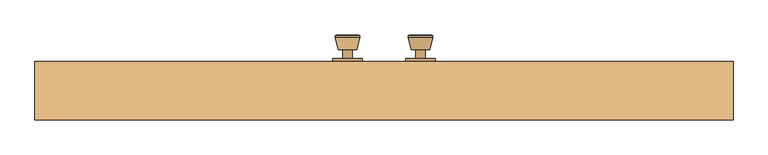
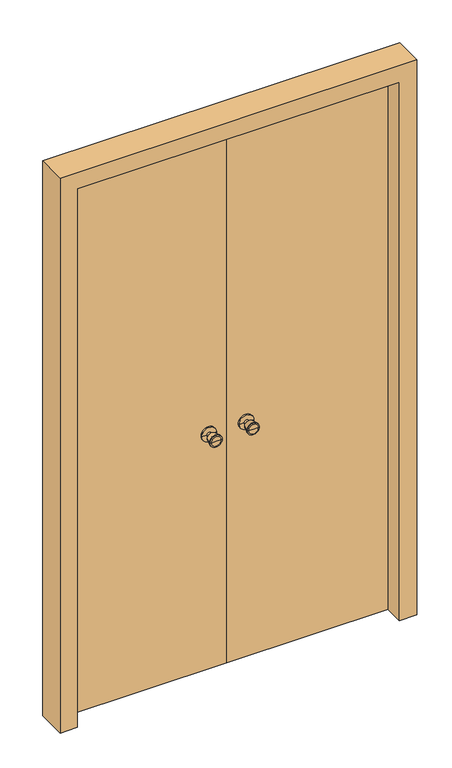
"""IFC4 building model written with IfcOpenShell, lengths in millimetres: door geometry, 雙開-矩形- (1) : 143.5 * 236 cm."""

from ifc_helpers import new_model, si_unit, frame, origin, origin_with_axes, place, context, project, spatial, polyline, circle_curve, outline, extrude, faceted_brep, source, transform, mapped, element, save
from ifc_brep_helpers import plane_surface, cylinder_surface, revolved_surface, advanced_brep


def door_297d4c04(model_context):
    return source(origin(), model_context, "Body", "SolidModel", [
        advanced_brep(
        [(45.0, 66.0, 1000.0), (105.0, 66.0, 1000.0), (105.0, 60.0, 1000.0), (45.0, 60.0, 1000.0), (65.0, 66.0, 1000.0), (85.0, 66.0, 1000.0), (65.0, 85.0, 1000.0), (85.0, 85.0, 1000.0), (56.4, 85.0, 1000.0), (93.6, 85.0, 1000.0), (50.0, 109.7, 1000.0), (100.0, 109.7, 1000.0), (50.0, 113.2, 1000.0), (100.0, 113.2, 1000.0), (54.5, 115.0, 1000.0), (95.5, 115.0, 1000.0), (75.0, 115.0, 1000.0), (75.0, 60.0, 1000.0)],
        [
            (0, 1, circle_curve(frame((75.0, 66.0, 1000.0), z_axis=(0.0, -1.0, 0.0), x_axis=(1.0, 0.0, 0.0)), 30.0)),
            (1, 2),
            (2, 3, circle_curve(frame((75.0, 60.0, 1000.0), z_axis=(0.0, 1.0, 0.0), x_axis=(1.0, 0.0, 0.0)), 30.0)),
            (3, 0),
            (1, 0, circle_curve(frame((75.0, 66.0, 1000.0), z_axis=(0.0, -1.0, 0.0), x_axis=(1.0, 0.0, 0.0)), 30.0)),
            (3, 2, circle_curve(frame((75.0, 60.0, 1000.0), z_axis=(0.0, 1.0, 0.0), x_axis=(1.0, 0.0, 0.0)), 30.0)),
            (4, 5, circle_curve(frame((75.0, 66.0, 1000.0), z_axis=(0.0, -1.0, 0.0), x_axis=(1.0, 0.0, 0.0)), 10.0)),
            (5, 1),
            (0, 4),
            (5, 4, circle_curve(frame((75.0, 66.0, 1000.0), z_axis=(0.0, -1.0, 0.0), x_axis=(1.0, 0.0, 0.0)), 10.0)),
            (6, 7, circle_curve(frame((75.0, 85.0, 1000.0), z_axis=(0.0, -1.0, 0.0), x_axis=(1.0, 0.0, 0.0)), 10.0)),
            (7, 5),
            (4, 6),
            (7, 6, circle_curve(frame((75.0, 85.0, 1000.0), z_axis=(0.0, -1.0, 0.0), x_axis=(1.0, 0.0, 0.0)), 10.0)),
            (8, 9, circle_curve(frame((75.0, 85.0, 1000.0), z_axis=(0.0, -1.0, 0.0), x_axis=(1.0, 0.0, 0.0)), 18.6)),
            (9, 7),
            (6, 8),
            (9, 8, circle_curve(frame((75.0, 85.0, 1000.0), z_axis=(0.0, -1.0, 0.0), x_axis=(1.0, 0.0, 0.0)), 18.6)),
            (10, 11, circle_curve(frame((75.0, 109.7, 1000.0), z_axis=(0.0, -1.0, 0.0), x_axis=(1.0, 0.0, 0.0)), 25.0)),
            (11, 9),
            (8, 10),
            (11, 10, circle_curve(frame((75.0, 109.7, 1000.0), z_axis=(0.0, -1.0, 0.0), x_axis=(1.0, 0.0, 0.0)), 25.0)),
            (12, 13, circle_curve(frame((75.0, 113.2, 1000.0), z_axis=(0.0, -1.0, 0.0), x_axis=(1.0, 0.0, 0.0)), 25.0)),
            (13, 11),
            (10, 12),
            (13, 12, circle_curve(frame((75.0, 113.2, 1000.0), z_axis=(0.0, -1.0, 0.0), x_axis=(1.0, 0.0, 0.0)), 25.0)),
            (14, 15, circle_curve(frame((75.0, 115.0, 1000.0), z_axis=(0.0, -1.0, 0.0), x_axis=(1.0, 0.0, 0.0)), 20.5)),
            (15, 13),
            (12, 14),
            (15, 14, circle_curve(frame((75.0, 115.0, 1000.0), z_axis=(0.0, -1.0, 0.0), x_axis=(1.0, 0.0, 0.0)), 20.5)),
            (16, 15),
            (14, 16),
            (2, 17),
            (17, 3),
        ],
        [
            cylinder_surface(frame((75.0, 0.0, 1000.0), z_axis=(0.0, 1.0, 0.0), x_axis=(1.0, 0.0, 0.0)), 30.0),
            plane_surface(frame((75.0, 66.0, 1000.0), z_axis=(0.0, 1.0, 0.0), x_axis=(1.0, 0.0, 0.0))),
            cylinder_surface(frame((75.0, 0.0, 1000.0), z_axis=(0.0, 1.0, 0.0), x_axis=(1.0, 0.0, 0.0)), 10.0),
            plane_surface(frame((75.0, 85.0, 1000.0), z_axis=(0.0, -1.0, 0.0), x_axis=(1.0, 0.0, 0.0))),
            revolved_surface(polyline([(93.6, 85.0, 1000.0), (100.0, 109.7, 1000.0)]), (75.0, 0.0, 1000.0), (0.0, 1.0, 0.0)),
            cylinder_surface(frame((75.0, 0.0, 1000.0), z_axis=(0.0, 1.0, 0.0), x_axis=(1.0, 0.0, 0.0)), 25.0),
            revolved_surface(polyline([(100.0, 113.2, 1000.0), (95.5, 115.0, 1000.0)]), (75.0, 0.0, 1000.0), (0.0, 1.0, 0.0)),
            plane_surface(frame((75.0, 115.0, 1000.0), z_axis=(0.0, 1.0, 0.0), x_axis=(1.0, 0.0, 0.0))),
            plane_surface(frame((75.0, 60.0, 1000.0), z_axis=(0.0, -1.0, 0.0), x_axis=(1.0, 0.0, 0.0))),
        ],
        [
            (0, [[1, 2, 3, 4]]),
            (0, [[5, -4, 6, -2]]),
            (1, [[7, 8, -1, 9]]),
            (1, [[10, -9, -5, -8]]),
            (2, [[11, 12, -7, 13]]),
            (2, [[14, -13, -10, -12]]),
            (3, [[15, 16, -11, 17]]),
            (3, [[18, -17, -14, -16]]),
            (4, [[19, 20, -15, 21]]),
            (4, [[22, -21, -18, -20]]),
            (5, [[23, 24, -19, 25]]),
            (5, [[26, -25, -22, -24]]),
            (6, [[27, 28, -23, 29]]),
            (6, [[30, -29, -26, -28]]),
            (7, [[31, -27, 32]]),
            (7, [[-32, -30, -31]]),
            (8, [[-3, 33, 34]]),
            (8, [[-6, -34, -33]]),
        ],
    ),
        advanced_brep(
        [(-45.0, 14.0, 1000.0), (-105.0, 14.0, 1000.0), (-105.0, 20.0, 1000.0), (-45.0, 20.0, 1000.0), (-65.0, 14.0, 1000.0), (-85.0, 14.0, 1000.0), (-65.0, -5.0, 1000.0), (-85.0, -5.0, 1000.0), (-56.4, -5.0, 1000.0), (-93.6, -5.0, 1000.0), (-50.0, -29.7, 1000.0), (-100.0, -29.7, 1000.0), (-50.0, -33.2, 1000.0), (-100.0, -33.2, 1000.0), (-54.5, -35.0, 1000.0), (-95.5, -35.0, 1000.0), (-75.0, -35.0, 1000.0), (-75.0, 20.0, 1000.0)],
        [
            (0, 1, circle_curve(frame((-75.0, 14.0, 1000.0), z_axis=(0.0, 1.0, 0.0), x_axis=(-1.0, 0.0, 0.0)), 30.0)),
            (1, 2),
            (2, 3, circle_curve(frame((-75.0, 20.0, 1000.0), z_axis=(0.0, -1.0, 0.0), x_axis=(-1.0, 0.0, 0.0)), 30.0)),
            (3, 0),
            (1, 0, circle_curve(frame((-75.0, 14.0, 1000.0), z_axis=(0.0, 1.0, 0.0), x_axis=(-1.0, 0.0, 0.0)), 30.0)),
            (3, 2, circle_curve(frame((-75.0, 20.0, 1000.0), z_axis=(0.0, -1.0, 0.0), x_axis=(-1.0, 0.0, 0.0)), 30.0)),
            (4, 5, circle_curve(frame((-75.0, 14.0, 1000.0), z_axis=(0.0, 1.0, 0.0), x_axis=(-1.0, 0.0, 0.0)), 10.0)),
            (5, 1),
            (0, 4),
            (5, 4, circle_curve(frame((-75.0, 14.0, 1000.0), z_axis=(0.0, 1.0, 0.0), x_axis=(-1.0, 0.0, 0.0)), 10.0)),
            (6, 7, circle_curve(frame((-75.0, -5.0, 1000.0), z_axis=(0.0, 1.0, 0.0), x_axis=(-1.0, 0.0, 0.0)), 10.0)),
            (7, 5),
            (4, 6),
            (7, 6, circle_curve(frame((-75.0, -5.0, 1000.0), z_axis=(0.0, 1.0, 0.0), x_axis=(-1.0, 0.0, 0.0)), 10.0)),
            (8, 9, circle_curve(frame((-75.0, -5.0, 1000.0), z_axis=(0.0, 1.0, 0.0), x_axis=(-1.0, 0.0, 0.0)), 18.6)),
            (9, 7),
            (6, 8),
            (9, 8, circle_curve(frame((-75.0, -5.0, 1000.0), z_axis=(0.0, 1.0, 0.0), x_axis=(-1.0, 0.0, 0.0)), 18.6)),
            (10, 11, circle_curve(frame((-75.0, -29.7, 1000.0), z_axis=(0.0, 1.0, 0.0), x_axis=(-1.0, 0.0, 0.0)), 25.0)),
            (11, 9),
            (8, 10),
            (11, 10, circle_curve(frame((-75.0, -29.7, 1000.0), z_axis=(0.0, 1.0, 0.0), x_axis=(-1.0, 0.0, 0.0)), 25.0)),
            (12, 13, circle_curve(frame((-75.0, -33.2, 1000.0), z_axis=(0.0, 1.0, 0.0), x_axis=(-1.0, 0.0, 0.0)), 25.0)),
            (13, 11),
            (10, 12),
            (13, 12, circle_curve(frame((-75.0, -33.2, 1000.0), z_axis=(0.0, 1.0, 0.0), x_axis=(-1.0, 0.0, 0.0)), 25.0)),
            (14, 15, circle_curve(frame((-75.0, -35.0, 1000.0), z_axis=(0.0, 1.0, 0.0), x_axis=(-1.0, 0.0, 0.0)), 20.5)),
            (15, 13),
            (12, 14),
            (15, 14, circle_curve(frame((-75.0, -35.0, 1000.0), z_axis=(0.0, 1.0, 0.0), x_axis=(-1.0, 0.0, 0.0)), 20.5)),
            (16, 15),
            (14, 16),
            (2, 17),
            (17, 3),
        ],
        [
            cylinder_surface(frame((-75.0, 80.0, 1000.0), z_axis=(0.0, -1.0, 0.0), x_axis=(-1.0, 0.0, 0.0)), 30.0),
            plane_surface(frame((-75.0, 14.0, 1000.0), z_axis=(0.0, -1.0, 0.0), x_axis=(-1.0, 0.0, 0.0))),
            cylinder_surface(frame((-75.0, 80.0, 1000.0), z_axis=(0.0, -1.0, 0.0), x_axis=(-1.0, 0.0, 0.0)), 10.0),
            plane_surface(frame((-75.0, -5.0, 1000.0), z_axis=(0.0, 1.0, 0.0), x_axis=(-1.0, 0.0, 0.0))),
            revolved_surface(polyline([(-93.6, -5.0, 1000.0), (-100.0, -29.7, 1000.0)]), (-75.0, 80.0, 1000.0), (0.0, -1.0, 0.0)),
            cylinder_surface(frame((-75.0, 80.0, 1000.0), z_axis=(0.0, -1.0, 0.0), x_axis=(-1.0, 0.0, 0.0)), 25.0),
            revolved_surface(polyline([(-100.0, -33.2, 1000.0), (-95.5, -35.0, 1000.0)]), (-75.0, 80.0, 1000.0), (0.0, -1.0, 0.0)),
            plane_surface(frame((-75.0, -35.0, 1000.0), z_axis=(0.0, -1.0, 0.0), x_axis=(-1.0, 0.0, 0.0))),
            plane_surface(frame((-75.0, 20.0, 1000.0), z_axis=(0.0, 1.0, 0.0), x_axis=(-1.0, 0.0, 0.0))),
        ],
        [
            (0, [[1, 2, 3, 4]]),
            (0, [[5, -4, 6, -2]]),
            (1, [[7, 8, -1, 9]]),
            (1, [[10, -9, -5, -8]]),
            (2, [[11, 12, -7, 13]]),
            (2, [[14, -13, -10, -12]]),
            (3, [[15, 16, -11, 17]]),
            (3, [[18, -17, -14, -16]]),
            (4, [[19, 20, -15, 21]]),
            (4, [[22, -21, -18, -20]]),
            (5, [[23, 24, -19, 25]]),
            (5, [[26, -25, -22, -24]]),
            (6, [[27, 28, -23, 29]]),
            (6, [[30, -29, -26, -28]]),
            (7, [[31, -27, 32]]),
            (7, [[-32, -30, -31]]),
            (8, [[-3, 33, 34]]),
            (8, [[-6, -34, -33]]),
        ],
    ),
        advanced_brep(
        [(45.0, 14.0, 1000.0), (45.0, 20.0, 1000.0), (105.0, 20.0, 1000.0), (105.0, 14.0, 1000.0), (65.0, 14.0, 1000.0), (85.0, 14.0, 1000.0), (65.0, -5.0, 1000.0), (85.0, -5.0, 1000.0), (56.4, -5.0, 1000.0), (93.6, -5.0, 1000.0), (50.0, -29.7, 1000.0), (100.0, -29.7, 1000.0), (50.0, -33.2, 1000.0), (100.0, -33.2, 1000.0), (54.5, -35.0, 1000.0), (95.5, -35.0, 1000.0), (75.0, -35.0, 1000.0), (75.0, 20.0, 1000.0)],
        [
            (0, 1),
            (1, 2, circle_curve(frame((75.0, 20.0, 1000.0), z_axis=(0.0, -1.0, 0.0), x_axis=(1.0, 0.0, 0.0)), 30.0)),
            (2, 3),
            (3, 0, circle_curve(frame((75.0, 14.0, 1000.0), z_axis=(0.0, 1.0, 0.0), x_axis=(1.0, 0.0, 0.0)), 30.0)),
            (2, 1, circle_curve(frame((75.0, 20.0, 1000.0), z_axis=(0.0, -1.0, 0.0), x_axis=(1.0, 0.0, 0.0)), 30.0)),
            (0, 3, circle_curve(frame((75.0, 14.0, 1000.0), z_axis=(0.0, 1.0, 0.0), x_axis=(1.0, 0.0, 0.0)), 30.0)),
            (4, 0),
            (3, 5),
            (5, 4, circle_curve(frame((75.0, 14.0, 1000.0), z_axis=(0.0, 1.0, 0.0), x_axis=(1.0, 0.0, 0.0)), 10.0)),
            (4, 5, circle_curve(frame((75.0, 14.0, 1000.0), z_axis=(0.0, 1.0, 0.0), x_axis=(1.0, 0.0, 0.0)), 10.0)),
            (6, 4),
            (5, 7),
            (7, 6, circle_curve(frame((75.0, -5.0, 1000.0), z_axis=(0.0, 1.0, 0.0), x_axis=(1.0, 0.0, 0.0)), 10.0)),
            (6, 7, circle_curve(frame((75.0, -5.0, 1000.0), z_axis=(0.0, 1.0, 0.0), x_axis=(1.0, 0.0, 0.0)), 10.0)),
            (8, 6),
            (7, 9),
            (9, 8, circle_curve(frame((75.0, -5.0, 1000.0), z_axis=(0.0, 1.0, 0.0), x_axis=(1.0, 0.0, 0.0)), 18.6)),
            (8, 9, circle_curve(frame((75.0, -5.0, 1000.0), z_axis=(0.0, 1.0, 0.0), x_axis=(1.0, 0.0, 0.0)), 18.6)),
            (10, 8),
            (9, 11),
            (11, 10, circle_curve(frame((75.0, -29.7, 1000.0), z_axis=(0.0, 1.0, 0.0), x_axis=(1.0, 0.0, 0.0)), 25.0)),
            (10, 11, circle_curve(frame((75.0, -29.7, 1000.0), z_axis=(0.0, 1.0, 0.0), x_axis=(1.0, 0.0, 0.0)), 25.0)),
            (12, 10),
            (11, 13),
            (13, 12, circle_curve(frame((75.0, -33.2, 1000.0), z_axis=(0.0, 1.0, 0.0), x_axis=(1.0, 0.0, 0.0)), 25.0)),
            (12, 13, circle_curve(frame((75.0, -33.2, 1000.0), z_axis=(0.0, 1.0, 0.0), x_axis=(1.0, 0.0, 0.0)), 25.0)),
            (14, 12),
            (13, 15),
            (15, 14, circle_curve(frame((75.0, -35.0, 1000.0), z_axis=(0.0, 1.0, 0.0), x_axis=(1.0, 0.0, 0.0)), 20.5)),
            (14, 15, circle_curve(frame((75.0, -35.0, 1000.0), z_axis=(0.0, 1.0, 0.0), x_axis=(1.0, 0.0, 0.0)), 20.5)),
            (16, 14),
            (15, 16),
            (1, 17),
            (17, 2),
        ],
        [
            cylinder_surface(frame((75.0, 80.0, 1000.0), z_axis=(0.0, -1.0, 0.0), x_axis=(1.0, 0.0, 0.0)), 30.0),
            plane_surface(frame((75.0, 14.0, 1000.0), z_axis=(0.0, -1.0, 0.0), x_axis=(1.0, 0.0, 0.0))),
            cylinder_surface(frame((75.0, 80.0, 1000.0), z_axis=(0.0, -1.0, 0.0), x_axis=(1.0, 0.0, 0.0)), 10.0),
            plane_surface(frame((75.0, -5.0, 1000.0), z_axis=(0.0, 1.0, 0.0), x_axis=(1.0, 0.0, 0.0))),
            revolved_surface(polyline([(93.6, -5.0, 1000.0), (100.0, -29.7, 1000.0)]), (75.0, 80.0, 1000.0), (0.0, -1.0, 0.0)),
            cylinder_surface(frame((75.0, 80.0, 1000.0), z_axis=(0.0, -1.0, 0.0), x_axis=(1.0, 0.0, 0.0)), 25.0),
            revolved_surface(polyline([(100.0, -33.2, 1000.0), (95.5, -35.0, 1000.0)]), (75.0, 80.0, 1000.0), (0.0, -1.0, 0.0)),
            plane_surface(frame((75.0, -35.0, 1000.0), z_axis=(0.0, -1.0, 0.0), x_axis=(1.0, 0.0, 0.0))),
            plane_surface(frame((75.0, 20.0, 1000.0), z_axis=(0.0, 1.0, 0.0), x_axis=(1.0, 0.0, 0.0))),
        ],
        [
            (0, [[1, 2, 3, 4]]),
            (0, [[-3, 5, -1, 6]]),
            (1, [[7, -4, 8, 9]]),
            (1, [[-8, -6, -7, 10]]),
            (2, [[11, -9, 12, 13]]),
            (2, [[-12, -10, -11, 14]]),
            (3, [[15, -13, 16, 17]]),
            (3, [[-16, -14, -15, 18]]),
            (4, [[19, -17, 20, 21]]),
            (4, [[-20, -18, -19, 22]]),
            (5, [[23, -21, 24, 25]]),
            (5, [[-24, -22, -23, 26]]),
            (6, [[27, -25, 28, 29]]),
            (6, [[-28, -26, -27, 30]]),
            (7, [[31, -29, 32]]),
            (7, [[-32, -30, -31]]),
            (8, [[33, 34, -2]]),
            (8, [[-34, -33, -5]]),
        ],
    ),
        advanced_brep(
        [(-45.0, 66.0, 1000.0), (-45.0, 60.0, 1000.0), (-105.0, 60.0, 1000.0), (-105.0, 66.0, 1000.0), (-65.0, 66.0, 1000.0), (-85.0, 66.0, 1000.0), (-65.0, 85.0, 1000.0), (-85.0, 85.0, 1000.0), (-56.4, 85.0, 1000.0), (-93.6, 85.0, 1000.0), (-50.0, 109.7, 1000.0), (-100.0, 109.7, 1000.0), (-50.0, 113.2, 1000.0), (-100.0, 113.2, 1000.0), (-54.5, 115.0, 1000.0), (-95.5, 115.0, 1000.0), (-75.0, 115.0, 1000.0), (-75.0, 60.0, 1000.0)],
        [
            (0, 1),
            (1, 2, circle_curve(frame((-75.0, 60.0, 1000.0), z_axis=(0.0, 1.0, 0.0), x_axis=(-1.0, 0.0, 0.0)), 30.0)),
            (2, 3),
            (3, 0, circle_curve(frame((-75.0, 66.0, 1000.0), z_axis=(0.0, -1.0, 0.0), x_axis=(-1.0, 0.0, 0.0)), 30.0)),
            (2, 1, circle_curve(frame((-75.0, 60.0, 1000.0), z_axis=(0.0, 1.0, 0.0), x_axis=(-1.0, 0.0, 0.0)), 30.0)),
            (0, 3, circle_curve(frame((-75.0, 66.0, 1000.0), z_axis=(0.0, -1.0, 0.0), x_axis=(-1.0, 0.0, 0.0)), 30.0)),
            (4, 0),
            (3, 5),
            (5, 4, circle_curve(frame((-75.0, 66.0, 1000.0), z_axis=(0.0, -1.0, 0.0), x_axis=(-1.0, 0.0, 0.0)), 10.0)),
            (4, 5, circle_curve(frame((-75.0, 66.0, 1000.0), z_axis=(0.0, -1.0, 0.0), x_axis=(-1.0, 0.0, 0.0)), 10.0)),
            (6, 4),
            (5, 7),
            (7, 6, circle_curve(frame((-75.0, 85.0, 1000.0), z_axis=(0.0, -1.0, 0.0), x_axis=(-1.0, 0.0, 0.0)), 10.0)),
            (6, 7, circle_curve(frame((-75.0, 85.0, 1000.0), z_axis=(0.0, -1.0, 0.0), x_axis=(-1.0, 0.0, 0.0)), 10.0)),
            (8, 6),
            (7, 9),
            (9, 8, circle_curve(frame((-75.0, 85.0, 1000.0), z_axis=(0.0, -1.0, 0.0), x_axis=(-1.0, 0.0, 0.0)), 18.6)),
            (8, 9, circle_curve(frame((-75.0, 85.0, 1000.0), z_axis=(0.0, -1.0, 0.0), x_axis=(-1.0, 0.0, 0.0)), 18.6)),
            (10, 8),
            (9, 11),
            (11, 10, circle_curve(frame((-75.0, 109.7, 1000.0), z_axis=(0.0, -1.0, 0.0), x_axis=(-1.0, 0.0, 0.0)), 25.0)),
            (10, 11, circle_curve(frame((-75.0, 109.7, 1000.0), z_axis=(0.0, -1.0, 0.0), x_axis=(-1.0, 0.0, 0.0)), 25.0)),
            (12, 10),
            (11, 13),
            (13, 12, circle_curve(frame((-75.0, 113.2, 1000.0), z_axis=(0.0, -1.0, 0.0), x_axis=(-1.0, 0.0, 0.0)), 25.0)),
            (12, 13, circle_curve(frame((-75.0, 113.2, 1000.0), z_axis=(0.0, -1.0, 0.0), x_axis=(-1.0, 0.0, 0.0)), 25.0)),
            (14, 12),
            (13, 15),
            (15, 14, circle_curve(frame((-75.0, 115.0, 1000.0), z_axis=(0.0, -1.0, 0.0), x_axis=(-1.0, 0.0, 0.0)), 20.5)),
            (14, 15, circle_curve(frame((-75.0, 115.0, 1000.0), z_axis=(0.0, -1.0, 0.0), x_axis=(-1.0, 0.0, 0.0)), 20.5)),
            (16, 14),
            (15, 16),
            (1, 17),
            (17, 2),
        ],
        [
            cylinder_surface(frame((-75.0, 0.0, 1000.0), z_axis=(0.0, 1.0, 0.0), x_axis=(-1.0, 0.0, 0.0)), 30.0),
            plane_surface(frame((-75.0, 66.0, 1000.0), z_axis=(0.0, 1.0, 0.0), x_axis=(-1.0, 0.0, 0.0))),
            cylinder_surface(frame((-75.0, 0.0, 1000.0), z_axis=(0.0, 1.0, 0.0), x_axis=(-1.0, 0.0, 0.0)), 10.0),
            plane_surface(frame((-75.0, 85.0, 1000.0), z_axis=(0.0, -1.0, 0.0), x_axis=(-1.0, 0.0, 0.0))),
            revolved_surface(polyline([(-93.6, 85.0, 1000.0), (-100.0, 109.7, 1000.0)]), (-75.0, 0.0, 1000.0), (0.0, 1.0, 0.0)),
            cylinder_surface(frame((-75.0, 0.0, 1000.0), z_axis=(0.0, 1.0, 0.0), x_axis=(-1.0, 0.0, 0.0)), 25.0),
            revolved_surface(polyline([(-100.0, 113.2, 1000.0), (-95.5, 115.0, 1000.0)]), (-75.0, 0.0, 1000.0), (0.0, 1.0, 0.0)),
            plane_surface(frame((-75.0, 115.0, 1000.0), z_axis=(0.0, 1.0, 0.0), x_axis=(-1.0, 0.0, 0.0))),
            plane_surface(frame((-75.0, 60.0, 1000.0), z_axis=(0.0, -1.0, 0.0), x_axis=(-1.0, 0.0, 0.0))),
        ],
        [
            (0, [[1, 2, 3, 4]]),
            (0, [[-3, 5, -1, 6]]),
            (1, [[7, -4, 8, 9]]),
            (1, [[-8, -6, -7, 10]]),
            (2, [[11, -9, 12, 13]]),
            (2, [[-12, -10, -11, 14]]),
            (3, [[15, -13, 16, 17]]),
            (3, [[-16, -14, -15, 18]]),
            (4, [[19, -17, 20, 21]]),
            (4, [[-20, -18, -19, 22]]),
            (5, [[23, -21, 24, 25]]),
            (5, [[-24, -22, -23, 26]]),
            (6, [[27, -25, 28, 29]]),
            (6, [[-28, -26, -27, 30]]),
            (7, [[31, -29, 32]]),
            (7, [[-32, -30, -31]]),
            (8, [[33, 34, -2]]),
            (8, [[-34, -33, -5]]),
        ],
    ),
        extrude(outline(polyline([(0.0, 60.0), (667.5, 60.0), (667.5, 20.0), (0.0, 20.0), (0.0, 60.0)])), origin_with_axes(), (0.0, 0.0, 1.0), 2310.0),
        extrude(outline(polyline([(-667.5, 60.0), (0.0, 60.0), (0.0, 20.0), (-667.5, 20.0), (-667.5, 60.0)])), origin_with_axes(), (0.0, 0.0, 1.0), 2310.0),
        faceted_brep([(667.5, 60.0, 0.0), (717.5, 60.0, 0.0), (717.5, -60.0, 0.0), (647.5, -60.0, 0.0), (647.5, 20.0, 0.0), (667.5, 20.0, 0.0), (667.5, 60.0, 2310.0), (-667.5, 60.0, 2310.0), (-667.5, 60.0, 0.0), (-717.5, 60.0, 0.0), (-717.5, 60.0, 2360.0), (717.5, 60.0, 2360.0), (717.5, -60.0, 2360.0), (-717.5, -60.0, 2360.0), (-717.5, -60.0, 0.0), (-647.5, -60.0, 0.0), (-647.5, -60.0, 2290.0), (647.5, -60.0, 2290.0), (647.5, 20.0, 2290.0), (-647.5, 20.0, 2290.0), (-647.5, 20.0, 0.0), (-667.5, 20.0, 0.0), (-667.5, 20.0, 2310.0), (667.5, 20.0, 2310.0)], [[[0, 1, 2, 3, 4, 5]], [[1, 0, 6, 7, 8, 9, 10, 11]], [[2, 1, 11, 12]], [[3, 2, 12, 13, 14, 15, 16, 17]], [[4, 3, 17, 18]], [[5, 4, 18, 19, 20, 21, 22, 23]], [[0, 5, 23, 6]], [[12, 11, 10, 13]], [[18, 17, 16, 19]], [[6, 23, 22, 7]], [[8, 21, 20, 15, 14, 9]], [[13, 10, 9, 14]], [[19, 16, 15, 20]], [[7, 22, 21, 8]]]),
    ])


if __name__ == "__main__":
    model = new_model("IFC4")
    model_context = context("Model", 3, world=origin())
    ifc_project = project(units=[si_unit("LENGTHUNIT", "METRE", prefix="MILLI")], contexts=[model_context])
    site = spatial("IfcSite", under=ifc_project)
    building = spatial("IfcBuilding", under=site)
    placement = place(None, origin())
    door_shape = door_297d4c04(model_context)
    element("IfcDoor", 1, ObjectType="雙開-矩形- (1) : 143.5 * 236 cm", at=placement, inside=building, context=model_context, shape_type="MappedRepresentation", body=[
        mapped(door_shape, transform((0.0, 0.0, 0.0), x_axis=(1.0, 0.0, 0.0), y_axis=(0.0, 1.0, 0.0), z_axis=(0.0, 0.0, 1.0))),
    ])
    save(model, "model.ifc")
